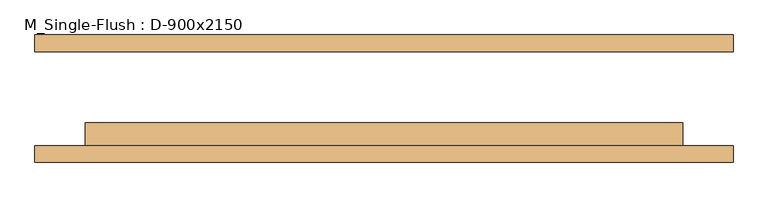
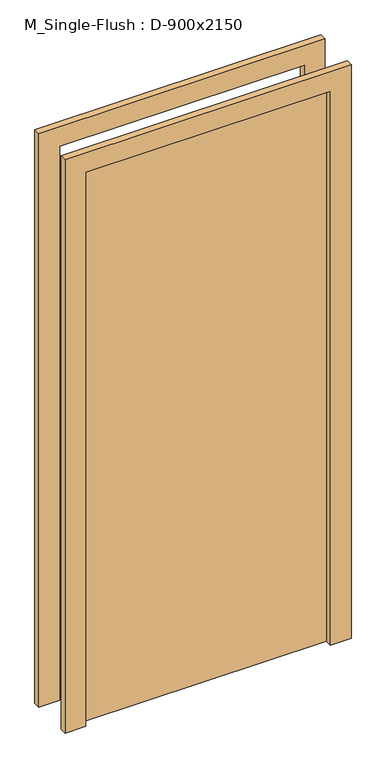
"""IFC4 building model written with IfcOpenShell, lengths in millimetres: door geometry, M_Single-Flush : D-900x2150."""

from ifc_helpers import new_model, si_unit, frame, origin, origin_with_axes, place, context, project, spatial, polyline, outline, extrude, source, transform, mapped, element, save


def m_single_flush_d_900x2150_4cfb9a1c(model_context):
    return source(origin(), model_context, "Body", "SweptSolid", [
        extrude(outline(polyline([(2226.0, -526.0), (0.0, -526.0), (0.0, -450.0), (2150.0, -450.0), (2150.0, 450.0), (0.0, 450.0), (0.0, 526.0), (2226.0, 526.0), (2226.0, -526.0)])), frame((0.0, -96.0, 0.0), z_axis=(0.0, 1.0, 0.0), x_axis=(0.0, 0.0, 1.0)), (0.0, 0.0, 1.0), 25.0),
        extrude(outline(polyline([(2226.0, 526.0), (2226.0, -526.0), (0.0, -526.0), (0.0, -450.0), (2150.0, -450.0), (2150.0, 450.0), (0.0, 450.0), (0.0, 526.0), (2226.0, 526.0)])), frame((0.0, 71.0, 0.0), z_axis=(0.0, 1.0, 0.0), x_axis=(0.0, 0.0, 1.0)), (0.0, 0.0, 1.0), 25.0),
        extrude(outline(polyline([(450.0, -36.0), (450.0, -71.0), (-450.0, -71.0), (-450.0, -36.0), (450.0, -36.0)])), origin_with_axes(), (0.0, 0.0, 1.0), 2150.0),
    ])


if __name__ == "__main__":
    model = new_model("IFC4")
    model_context = context("Model", 3, world=origin())
    ifc_project = project(units=[si_unit("LENGTHUNIT", "METRE", prefix="MILLI")], contexts=[model_context])
    site = spatial("IfcSite", under=ifc_project)
    building = spatial("IfcBuilding", under=site)
    placement = place(None, origin())
    m_single_flush_d_900x2150_shape = m_single_flush_d_900x2150_4cfb9a1c(model_context)
    element("IfcDoor", 1, ObjectType="M_Single-Flush : D-900x2150", at=placement, inside=building, context=model_context, shape_type="MappedRepresentation", body=[
        mapped(m_single_flush_d_900x2150_shape, transform((0.0, 0.0, 0.0), x_axis=(1.0, 0.0, 0.0), y_axis=(0.0, 1.0, 0.0), z_axis=(0.0, 0.0, 1.0))),
    ])
    save(model, "model.ifc")
